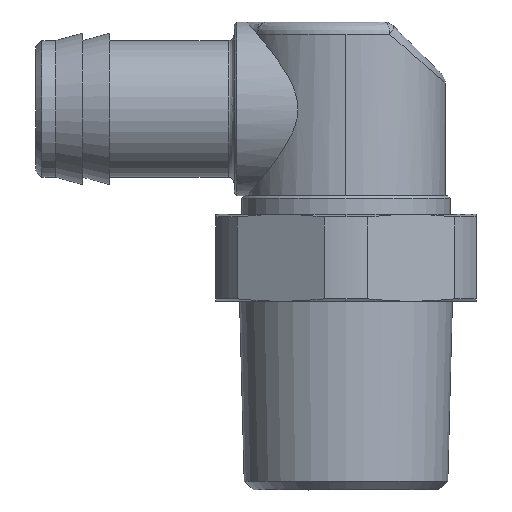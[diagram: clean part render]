
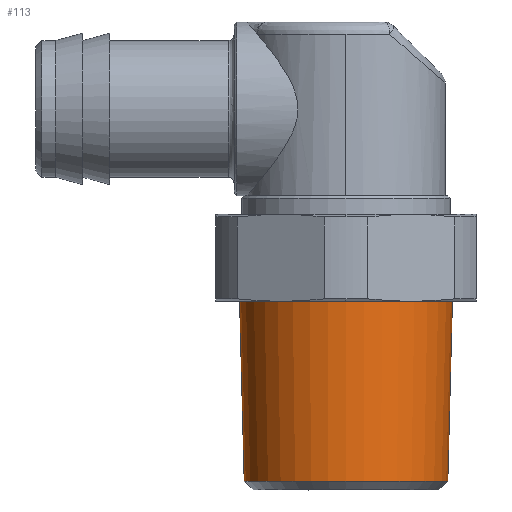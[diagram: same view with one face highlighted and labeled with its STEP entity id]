
A CAD part, front view. The second image highlights one B-rep face of the part: STEP entity #113.
In plain terms, the highlighted free-form (B-spline) face has degree [2, 1] with [5, 3] control points.
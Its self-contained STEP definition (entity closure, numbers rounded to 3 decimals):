
#113=ADVANCED_FACE('',(#213),#1530,.T.);
#213=FACE_OUTER_BOUND('',#320,.T.);
#320=EDGE_LOOP('',(#729,#730,#731,#732));
#729=ORIENTED_EDGE('',*,*,#978,.T.);
#730=ORIENTED_EDGE('',*,*,#881,.T.);
#731=ORIENTED_EDGE('',*,*,#885,.T.);
#732=ORIENTED_EDGE('',*,*,#979,.F.);
#881=EDGE_CURVE('',#1393,#1395,#1088,.T.);
#885=EDGE_CURVE('',#1395,#1450,#1187,.T.);
#978=EDGE_CURVE('',#1449,#1393,#1217,.T.);
#979=EDGE_CURVE('',#1449,#1450,#1125,.T.);
#1088=B_SPLINE_CURVE_WITH_KNOTS('',1,(#3959,#3960,#3961),.UNSPECIFIED.,
 .F.,.F.,(2,1,2),(-14.213,0.,0.292),.UNSPECIFIED.);
#1125=B_SPLINE_CURVE_WITH_KNOTS('',1,(#4416,#4417,#4418),.UNSPECIFIED.,
 .F.,.F.,(2,1,2),(-14.213,0.,0.292),.UNSPECIFIED.);
#1187=TRIMMED_CURVE($,#1288,(#3971),(#3972),.T.,.CARTESIAN.);
#1217=TRIMMED_CURVE($,#1318,(#4414),(#4415),.T.,.CARTESIAN.);
#1288=CIRCLE('',#1761,8.572);
#1318=CIRCLE('',#1791,8.2);
#1393=VERTEX_POINT('',#3889);
#1395=VERTEX_POINT('',#3891);
#1449=VERTEX_POINT('',#3945);
#1450=VERTEX_POINT('',#3946);
#1530=(
BOUNDED_SURFACE()
B_SPLINE_SURFACE(2,1,((#3743,#3744,#3745),(#3746,#3747,#3748),(#3749,#3750,
#3751),(#3752,#3753,#3754),(#3755,#3756,#3757)),.UNSPECIFIED.,.F.,.F.,.F.)
B_SPLINE_SURFACE_WITH_KNOTS((3,2,3),(2,1,2),(27.085,40.627,
54.17),(-14.213,0.,2.57),.UNSPECIFIED.)
GEOMETRIC_REPRESENTATION_ITEM()
RATIONAL_B_SPLINE_SURFACE(((1.,1.,1.),(0.707,0.707,
0.707),(1.,1.,1.),(0.707,0.707,0.707),
(1.,1.,1.)))
REPRESENTATION_ITEM('')
SURFACE()
);
#1761=AXIS2_PLACEMENT_3D($,#3970,#1976,#1977);
#1791=AXIS2_PLACEMENT_3D($,#4413,#2036,#2037);
#1976=DIRECTION('',(0.,0.,-1.));
#1977=DIRECTION('',(1.,0.,0.));
#2036=DIRECTION('',(0.,0.,1.));
#2037=DIRECTION('',(-1.,0.,0.));
#3743=CARTESIAN_POINT('',(127098.033,-54677.797,-30.));
#3744=CARTESIAN_POINT('',(127097.668,-54677.797,-15.792));
#3745=CARTESIAN_POINT('',(127097.602,-54677.797,-13.223));
#3746=CARTESIAN_POINT('',(127098.033,-54685.997,-30.));
#3747=CARTESIAN_POINT('',(127097.668,-54686.362,-15.792));
#3748=CARTESIAN_POINT('',(127097.602,-54686.428,-13.223));
#3749=CARTESIAN_POINT('',(127106.233,-54685.997,-30.));
#3750=CARTESIAN_POINT('',(127106.233,-54686.362,-15.792));
#3751=CARTESIAN_POINT('',(127106.233,-54686.428,-13.223));
#3752=CARTESIAN_POINT('',(127114.434,-54685.997,-30.));
#3753=CARTESIAN_POINT('',(127114.798,-54686.362,-15.792));
#3754=CARTESIAN_POINT('',(127114.864,-54686.428,-13.223));
#3755=CARTESIAN_POINT('',(127114.434,-54677.797,-30.));
#3756=CARTESIAN_POINT('',(127114.798,-54677.797,-15.792));
#3757=CARTESIAN_POINT('',(127114.864,-54677.797,-13.223));
#3889=CARTESIAN_POINT('',(127114.434,-54677.797,-30.));
#3891=CARTESIAN_POINT('',(127114.806,-54677.797,-15.5));
#3945=CARTESIAN_POINT('',(127098.033,-54677.797,-30.));
#3946=CARTESIAN_POINT('',(127097.661,-54677.797,-15.5));
#3959=CARTESIAN_POINT('',(127114.434,-54677.797,-30.));
#3960=CARTESIAN_POINT('',(127114.798,-54677.797,-15.792));
#3961=CARTESIAN_POINT('',(127114.806,-54677.797,-15.5));
#3970=CARTESIAN_POINT('',(127106.233,-54677.797,-15.5));
#3971=CARTESIAN_POINT('',(127114.806,-54677.797,-15.5));
#3972=CARTESIAN_POINT('',(127097.661,-54677.797,-15.5));
#4413=CARTESIAN_POINT('',(127106.233,-54677.797,-30.));
#4414=CARTESIAN_POINT('',(127098.033,-54677.797,-30.));
#4415=CARTESIAN_POINT('',(127114.434,-54677.797,-30.));
#4416=CARTESIAN_POINT('',(127098.033,-54677.797,-30.));
#4417=CARTESIAN_POINT('',(127097.668,-54677.797,-15.792));
#4418=CARTESIAN_POINT('',(127097.661,-54677.797,-15.5));
